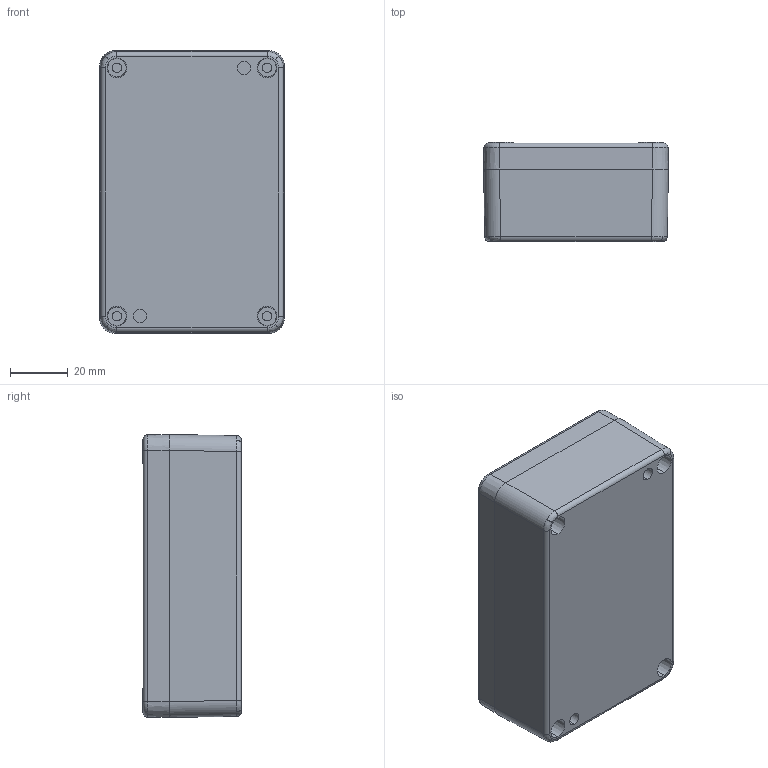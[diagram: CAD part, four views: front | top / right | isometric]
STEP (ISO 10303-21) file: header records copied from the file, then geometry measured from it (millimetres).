
FILE_DESCRIPTION (( 'STEP AP203' ), '1' );
FILE_NAME ('AN-12P-01.step', '2016-12-27T20:37:36', ( '' ), ( '' ), 'SwSTEP 2.0', 'SolidWorks 2016', '' );
FILE_SCHEMA (( 'CONFIG_CONTROL_DESIGN' ));
Length unit declared in the file: inch
Products named in the file (6): cross recessed countersunk head screw_jis_JIS 1111 Cross recessed countersunk head screw - M4 x 20 - Z --20CSST; AN-12P-01; AN-12B_AN-12BP-01; GASKET-112-01; AN-12C_AN-12C-01; SCREWS-034-4
Assembly tree (8 placements, depth 3):
  AN-12P-01
    AN-12B_AN-12BP-01
    AN-12C_AN-12C-01
    SCREWS-034-4
      cross recessed countersunk head screw_jis_JIS 1111 Cross recessed countersunk head screw - M4 x 20 - Z --20CSST  x4
    GASKET-112-01
Bounding box: 64 x 34.26 x 98 mm (x, y, z)
Volume: 72765.9 mm3; surface area: 51900.1 mm2
Topology: 7 solids, 7 shells, 687 faces, 1624 edges, 966 vertices
Faces by surface type: cylinder 244, plane 201, torus 132, cone 102, bspline 8
Entity records: 17840 total; most frequent: DIRECTION 3252, CARTESIAN_POINT 3102, ORIENTED_EDGE 2788, EDGE_CURVE 1394, AXIS2_PLACEMENT_3D 1303, VERTEX_POINT 831, CIRCLE 708, VECTOR 646
